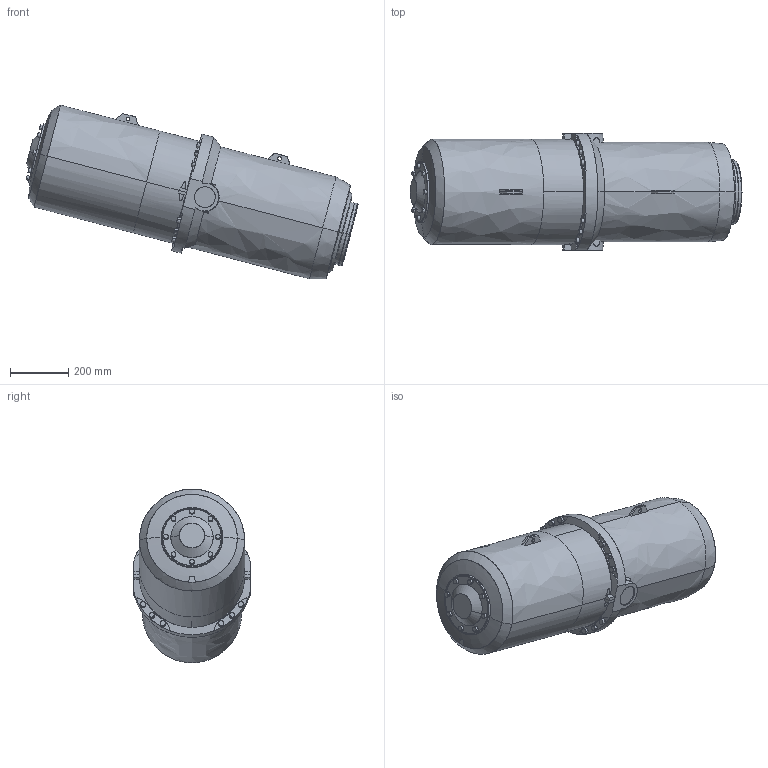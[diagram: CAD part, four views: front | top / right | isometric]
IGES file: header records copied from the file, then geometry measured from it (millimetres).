
Start section: SolidWorks IGES file using analytic representation for surfaces
Global section: file name: N:\DM\Robotics\SEROP_PROJ\Product Development\DevelopmentProjects\Manipulator_Modularity\04. Product Design\06. CAD\Amanda\6730S Simulation models\\IRB6730S-MH3_150kg-400_OC_01_IGES_J\IRB6730S_All_OC_00_CYL_CAD.igs; native system: SolidWorks 2024; preprocessor: SolidWorks 2024; author: SEJOHLUN; date: 251219.145545; units: millimetre
Bounding box: 1135.4 x 400 x 593.95 mm (x, y, z)
Surface area: 1645423.7 mm2 (no closed solid volume)
Topology: 0 solids, 0 shells, 235 faces, 5761 edges, 5761 vertices
Faces by surface type: revolution 128, bspline 107
